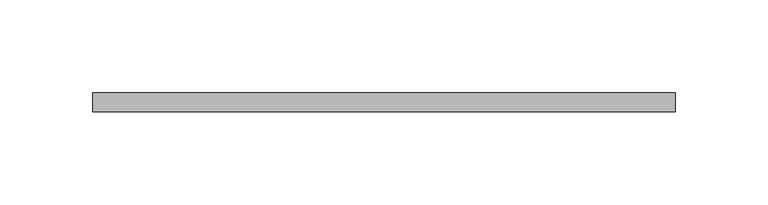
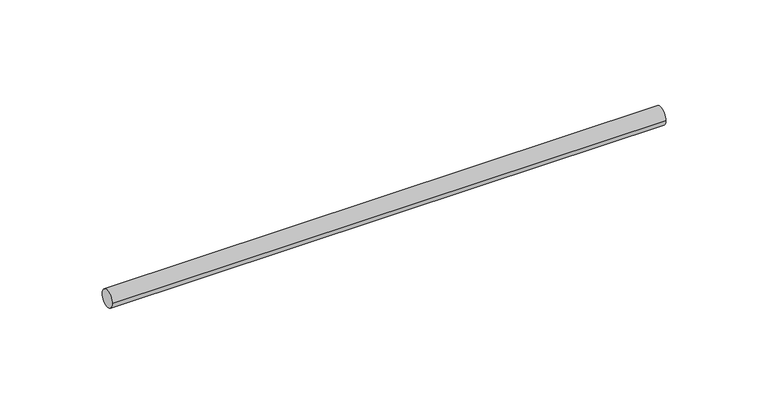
"""IFC4 building model written with IfcOpenShell, lengths in millimetres: valve geometry, Superfix Threaded Rod (used for clamps) : Threaded Rod  Extra  - 1000 mm (used for clamps)."""

from ifc_helpers import new_model, si_unit, point, frame, origin, origin_2d, place, context, project, spatial, circle_curve, trimmed, segment, composite_curve, outline, extrude, source, transform, mapped, element, save


def valve_0a1c648b(model_context):
    return source(origin(), model_context, "Body", "SweptSolid", [
        extrude(outline(composite_curve([segment(trimmed(circle_curve(origin_2d(), 5.0), [point((-5.0, 0.0))], [point((5.0, 0.0))], False, "CARTESIAN"), True, "CONTINUOUS"), segment(trimmed(circle_curve(origin_2d(), 5.0), [point((5.0, 0.0))], [point((-5.0, 0.0))], False, "CARTESIAN"), True, "CONTINUOUS")], self_intersect=False)), frame((-10.0, 0.0, 0.0), z_axis=(1.0, 0.0, 0.0), x_axis=(0.0, 1.0, 0.0)), (0.0, 0.0, 1.0), 313.0),
    ])


if __name__ == "__main__":
    model = new_model("IFC4")
    model_context = context("Model", 3, world=origin())
    ifc_project = project(units=[si_unit("LENGTHUNIT", "METRE", prefix="MILLI")], contexts=[model_context])
    site = spatial("IfcSite", under=ifc_project)
    building = spatial("IfcBuilding", under=site)
    placement = place(None, origin())
    valve_shape = valve_0a1c648b(model_context)
    element("IfcValve", 1, ObjectType="Superfix Threaded Rod (used for clamps) : Threaded Rod  Extra  - 1000 mm (used for clamps)", at=placement, inside=building, context=model_context, shape_type="MappedRepresentation", body=[
        mapped(valve_shape, transform((0.0, 0.0, 0.0), x_axis=(1.0, 0.0, 0.0), y_axis=(0.0, 1.0, 0.0), z_axis=(0.0, 0.0, 1.0))),
    ])
    save(model, "model.ifc")
